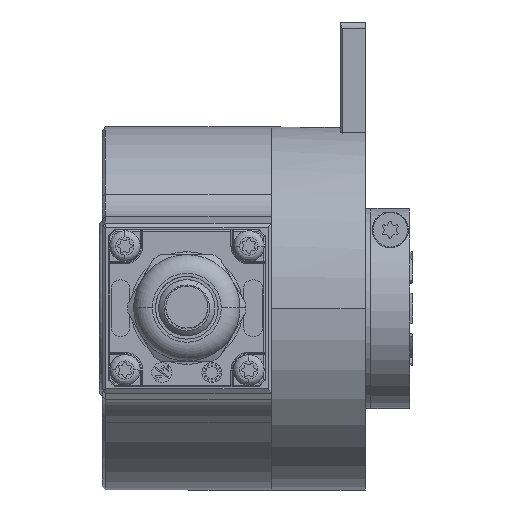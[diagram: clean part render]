
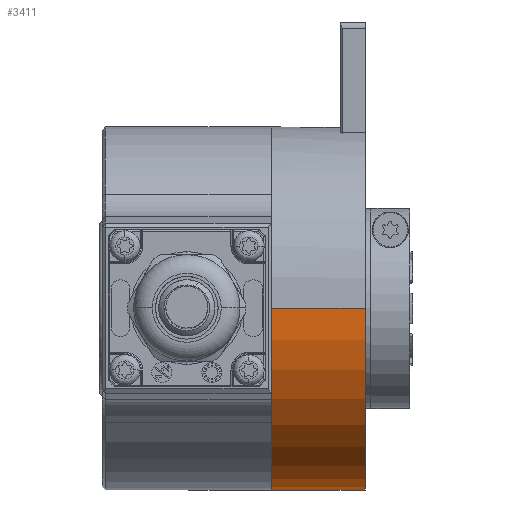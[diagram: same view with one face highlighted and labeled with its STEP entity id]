
A CAD part, top view. The second image highlights one B-rep face of the part: STEP entity #3411.
In plain terms, the highlighted cylindrical face has radius 29 mm (diameter 58 mm), a partial arc.
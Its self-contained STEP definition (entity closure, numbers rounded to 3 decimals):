
#744 = CARTESIAN_POINT ( 'NONE',  ( 0., 0., -29. ) ) ;
#1043 = LINE ( 'NONE', #14347, #9282 ) ;
#1206 = LINE ( 'NONE', #5985, #6677 ) ;
#1675 = DIRECTION ( 'NONE',  ( -1., 0., 0. ) ) ;
#2476 = CARTESIAN_POINT ( 'NONE',  ( 15., 0., 29. ) ) ;
#2480 = CARTESIAN_POINT ( 'NONE',  ( -21.996, 0., 0. ) ) ;
#3409 = CARTESIAN_POINT ( 'NONE',  ( 0., 0., 29. ) ) ;
#3411 = ADVANCED_FACE ( 'NONE', ( #12920 ), #4384, .T. ) ;
#4384 = CYLINDRICAL_SURFACE ( 'NONE', #15310, 29. ) ;
#5985 = CARTESIAN_POINT ( 'NONE',  ( -21.996, 0., -29. ) ) ;
#6593 = EDGE_CURVE ( 'NONE', #8272, #20522, #17186, .T. ) ;
#6677 = VECTOR ( 'NONE', #11181, 1000. ) ;
#6730 = EDGE_CURVE ( 'NONE', #21168, #8843, #12946, .T. ) ;
#6976 = AXIS2_PLACEMENT_3D ( 'NONE', #11648, #1675, #15079 ) ;
#7916 = DIRECTION ( 'NONE',  ( 0., 0., 1. ) ) ;
#8272 = VERTEX_POINT ( 'NONE', #744 ) ;
#8432 = ORIENTED_EDGE ( 'NONE', *, *, #17343, .T. ) ;
#8542 = ORIENTED_EDGE ( 'NONE', *, *, #6730, .T. ) ;
#8843 = VERTEX_POINT ( 'NONE', #2476 ) ;
#9282 = VECTOR ( 'NONE', #12801, 1000. ) ;
#11181 = DIRECTION ( 'NONE',  ( -1., 0., 0. ) ) ;
#11219 = DIRECTION ( 'NONE',  ( -1., 0., 0. ) ) ;
#11648 = CARTESIAN_POINT ( 'NONE',  ( 15., 0., 0. ) ) ;
#12801 = DIRECTION ( 'NONE',  ( -1., 0., 0. ) ) ;
#12889 = EDGE_LOOP ( 'NONE', ( #13697, #8542, #8432, #16912 ) ) ;
#12920 = FACE_OUTER_BOUND ( 'NONE', #12889, .T. ) ;
#12946 = CIRCLE ( 'NONE', #6976, 29. ) ;
#12997 = CARTESIAN_POINT ( 'NONE',  ( 0., 0., 0. ) ) ;
#13022 = DIRECTION ( 'NONE',  ( -1., 0., 0. ) ) ;
#13697 = ORIENTED_EDGE ( 'NONE', *, *, #21581, .F. ) ;
#14347 = CARTESIAN_POINT ( 'NONE',  ( -21.996, 0., 29. ) ) ;
#15079 = DIRECTION ( 'NONE',  ( 0., 0., 1. ) ) ;
#15310 = AXIS2_PLACEMENT_3D ( 'NONE', #2480, #13022, #7916 ) ;
#16912 = ORIENTED_EDGE ( 'NONE', *, *, #6593, .F. ) ;
#17186 = CIRCLE ( 'NONE', #17539, 29. ) ;
#17343 = EDGE_CURVE ( 'NONE', #8843, #20522, #1043, .T. ) ;
#17539 = AXIS2_PLACEMENT_3D ( 'NONE', #12997, #11219, #19547 ) ;
#18305 = CARTESIAN_POINT ( 'NONE',  ( 15., 0., -29. ) ) ;
#19547 = DIRECTION ( 'NONE',  ( 0., 0., 1. ) ) ;
#20522 = VERTEX_POINT ( 'NONE', #3409 ) ;
#21168 = VERTEX_POINT ( 'NONE', #18305 ) ;
#21581 = EDGE_CURVE ( 'NONE', #21168, #8272, #1206, .T. ) ;
